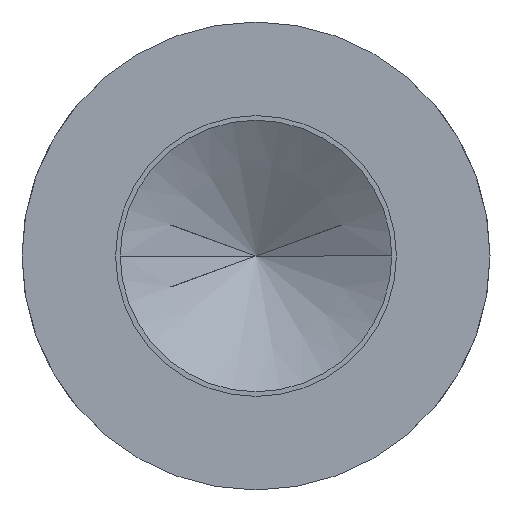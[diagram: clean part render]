
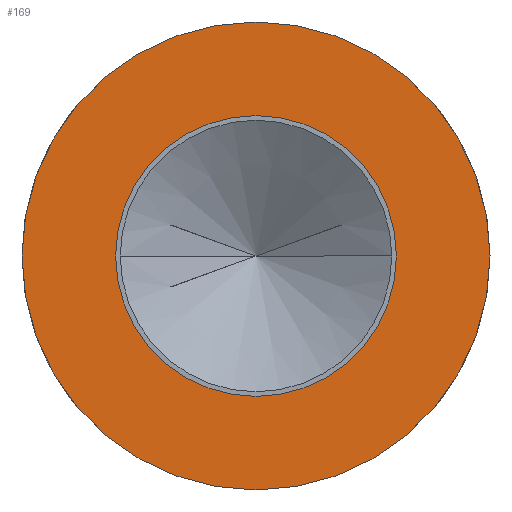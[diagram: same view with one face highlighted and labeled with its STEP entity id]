
A CAD part, left-side view. The second image highlights one B-rep face of the part: STEP entity #169.
In plain terms, the highlighted planar face has unit normal (-1, 0, 0).
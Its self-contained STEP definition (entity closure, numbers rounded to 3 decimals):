
#17 = DIRECTION ( 'NONE',  ( 0., 1., 0. ) ) ;
#62 = AXIS2_PLACEMENT_3D ( 'NONE', #652, #242, #17 ) ;
#79 = CARTESIAN_POINT ( 'NONE',  ( -60., -5., 0. ) ) ;
#88 = PLANE ( 'NONE',  #140 ) ;
#114 = CARTESIAN_POINT ( 'NONE',  ( -60., -3., 0. ) ) ;
#140 = AXIS2_PLACEMENT_3D ( 'NONE', #515, #297, #293 ) ;
#146 = ORIENTED_EDGE ( 'NONE', *, *, #267, .F. ) ;
#159 = EDGE_CURVE ( 'NONE', #630, #273, #664, .T. ) ;
#169 = ADVANCED_FACE ( 'NONE', ( #551, #410 ), #88, .T. ) ;
#242 = DIRECTION ( 'NONE',  ( 1., 0., 0. ) ) ;
#254 = CARTESIAN_POINT ( 'NONE',  ( -60., 0., 0. ) ) ;
#267 = EDGE_CURVE ( 'NONE', #432, #681, #387, .T. ) ;
#273 = VERTEX_POINT ( 'NONE', #114 ) ;
#274 = CIRCLE ( 'NONE', #62, 3. ) ;
#289 = AXIS2_PLACEMENT_3D ( 'NONE', #670, #351, #614 ) ;
#291 = CARTESIAN_POINT ( 'NONE',  ( -60., 3., 0. ) ) ;
#293 = DIRECTION ( 'NONE',  ( 0., -1., 0. ) ) ;
#297 = DIRECTION ( 'NONE',  ( -1., 0., 0. ) ) ;
#317 = ORIENTED_EDGE ( 'NONE', *, *, #572, .T. ) ;
#335 = CARTESIAN_POINT ( 'NONE',  ( -60., 0., 0. ) ) ;
#344 = AXIS2_PLACEMENT_3D ( 'NONE', #254, #623, #583 ) ;
#351 = DIRECTION ( 'NONE',  ( 1., 0., 0. ) ) ;
#374 = EDGE_LOOP ( 'NONE', ( #146, #613 ) ) ;
#387 = CIRCLE ( 'NONE', #400, 5. ) ;
#391 = DIRECTION ( 'NONE',  ( 0., 1., 0. ) ) ;
#393 = EDGE_CURVE ( 'NONE', #681, #432, #560, .T. ) ;
#400 = AXIS2_PLACEMENT_3D ( 'NONE', #335, #556, #391 ) ;
#410 = FACE_OUTER_BOUND ( 'NONE', #374, .T. ) ;
#425 = ORIENTED_EDGE ( 'NONE', *, *, #159, .T. ) ;
#432 = VERTEX_POINT ( 'NONE', #538 ) ;
#515 = CARTESIAN_POINT ( 'NONE',  ( -60., 5., 0. ) ) ;
#538 = CARTESIAN_POINT ( 'NONE',  ( -60., 5., 0. ) ) ;
#551 = FACE_BOUND ( 'NONE', #698, .T. ) ;
#556 = DIRECTION ( 'NONE',  ( 1., 0., 0. ) ) ;
#560 = CIRCLE ( 'NONE', #289, 5. ) ;
#572 = EDGE_CURVE ( 'NONE', #273, #630, #274, .T. ) ;
#583 = DIRECTION ( 'NONE',  ( 0., 1., 0. ) ) ;
#613 = ORIENTED_EDGE ( 'NONE', *, *, #393, .F. ) ;
#614 = DIRECTION ( 'NONE',  ( 0., 1., 0. ) ) ;
#623 = DIRECTION ( 'NONE',  ( 1., 0., 0. ) ) ;
#630 = VERTEX_POINT ( 'NONE', #291 ) ;
#652 = CARTESIAN_POINT ( 'NONE',  ( -60., 0., 0. ) ) ;
#664 = CIRCLE ( 'NONE', #344, 3. ) ;
#670 = CARTESIAN_POINT ( 'NONE',  ( -60., 0., 0. ) ) ;
#681 = VERTEX_POINT ( 'NONE', #79 ) ;
#698 = EDGE_LOOP ( 'NONE', ( #425, #317 ) ) ;
